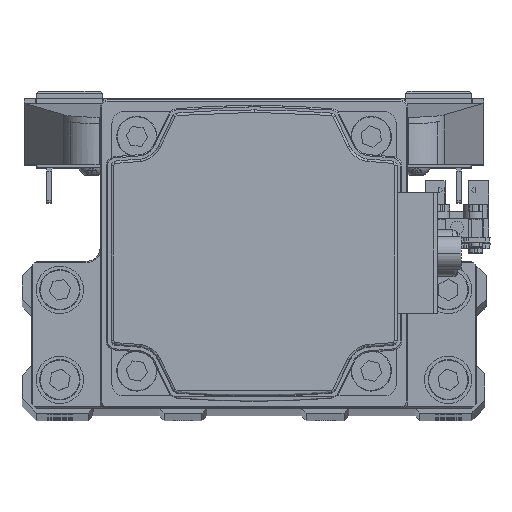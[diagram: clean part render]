
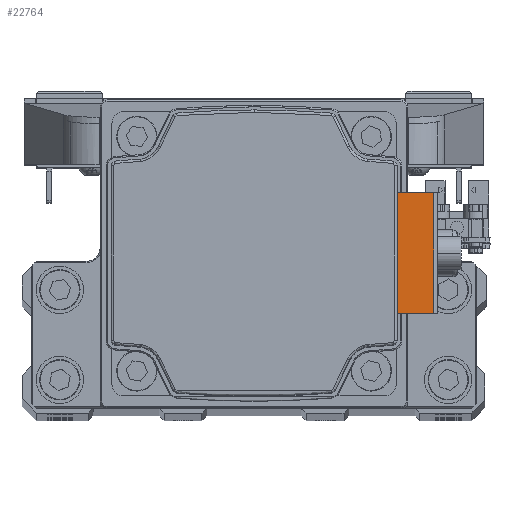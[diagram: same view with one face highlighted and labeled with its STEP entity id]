
A CAD part, top view. The second image highlights one B-rep face of the part: STEP entity #22764.
In plain terms, the highlighted planar face has unit normal (0, 0, 1) as drawn and (0, 0, -1) by its records, which use the part's own axes.
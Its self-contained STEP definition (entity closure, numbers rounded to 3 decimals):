
#7204 = CARTESIAN_POINT ( 'NONE',  ( 12.75, 37.9, -88.696 ) ) ;
#7205 = CARTESIAN_POINT ( 'NONE',  ( 12.75, 33.991, -88.696 ) ) ;
#9462 = ORIENTED_EDGE ( 'NONE', *, *, #31251, .F. ) ;
#9705 = CARTESIAN_POINT ( 'NONE',  ( 0., 37.9, -88.696 ) ) ;
#10511 = CARTESIAN_POINT ( 'NONE',  ( -12.75, 37.9, -88.696 ) ) ;
#11422 = CARTESIAN_POINT ( 'NONE',  ( -12.75, 30.2, -88.696 ) ) ;
#12618 = LINE ( 'NONE', #27151, #47030 ) ;
#12962 = DIRECTION ( 'NONE',  ( 0., 0., -1. ) ) ;
#15634 = CARTESIAN_POINT ( 'NONE',  ( 12.75, 30.2, -88.696 ) ) ;
#16524 = FACE_OUTER_BOUND ( 'NONE', #43235, .T. ) ;
#17295 = VECTOR ( 'NONE', #24241, 1000. ) ;
#17646 = CARTESIAN_POINT ( 'NONE',  ( -12.75, 37.9, -88.696 ) ) ;
#17852 = AXIS2_PLACEMENT_3D ( 'NONE', #45602, #12962, #27494 ) ;
#17959 = ORIENTED_EDGE ( 'NONE', *, *, #46899, .T. ) ;
#20014 = VERTEX_POINT ( 'NONE', #11422 ) ;
#21163 = EDGE_CURVE ( 'NONE', #37562, #37053, #39840, .T. ) ;
#21726 = DIRECTION ( 'NONE',  ( 0., 1., 0. ) ) ;
#22307 = VECTOR ( 'NONE', #25031, 1000. ) ;
#22764 = ADVANCED_FACE ( 'NONE', ( #16524 ), #31101, .T. ) ;
#24241 = DIRECTION ( 'NONE',  ( 1., 0., 0. ) ) ;
#25031 = DIRECTION ( 'NONE',  ( 0., 1., 0. ) ) ;
#27151 = CARTESIAN_POINT ( 'NONE',  ( 18.438, 30.2, -88.696 ) ) ;
#27494 = DIRECTION ( 'NONE',  ( -1., 0., 0. ) ) ;
#28197 = ORIENTED_EDGE ( 'NONE', *, *, #30582, .T. ) ;
#30582 = EDGE_CURVE ( 'NONE', #31030, #37053, #42335, .T. ) ;
#31030 = VERTEX_POINT ( 'NONE', #17646 ) ;
#31101 = PLANE ( 'NONE',  #17852 ) ;
#31119 = ORIENTED_EDGE ( 'NONE', *, *, #21163, .F. ) ;
#31251 = EDGE_CURVE ( 'NONE', #20014, #37562, #12618, .T. ) ;
#37053 = VERTEX_POINT ( 'NONE', #7204 ) ;
#37562 = VERTEX_POINT ( 'NONE', #15634 ) ;
#39840 = LINE ( 'NONE', #7205, #45255 ) ;
#41690 = DIRECTION ( 'NONE',  ( 1., 0., 0. ) ) ;
#42335 = LINE ( 'NONE', #9705, #17295 ) ;
#43144 = LINE ( 'NONE', #10511, #22307 ) ;
#43235 = EDGE_LOOP ( 'NONE', ( #17959, #28197, #31119, #9462 ) ) ;
#45255 = VECTOR ( 'NONE', #21726, 1000. ) ;
#45602 = CARTESIAN_POINT ( 'NONE',  ( 0., 37.9, -88.696 ) ) ;
#46899 = EDGE_CURVE ( 'NONE', #20014, #31030, #43144, .T. ) ;
#47030 = VECTOR ( 'NONE', #41690, 1000. ) ;
